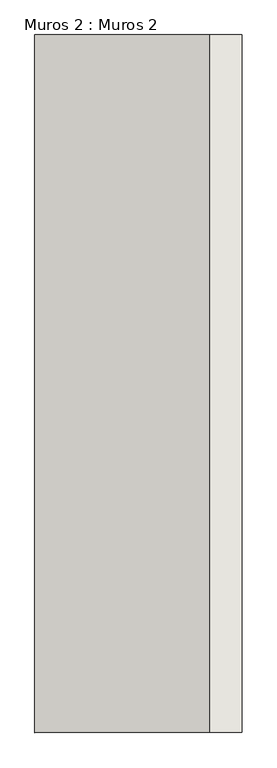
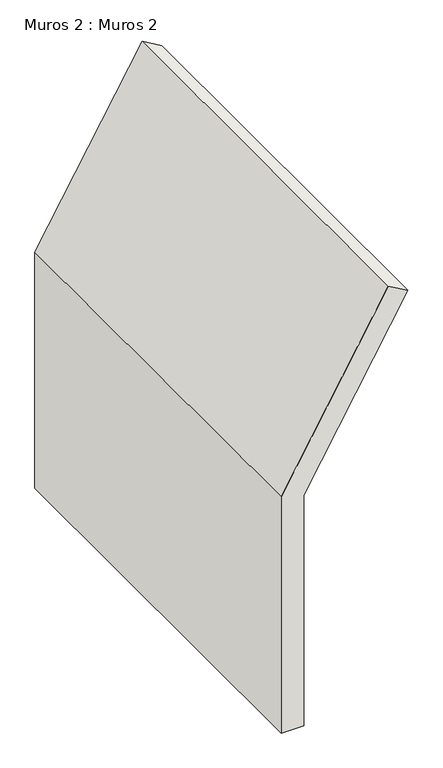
"""IFC4 building model written with IfcOpenShell, lengths in millimetres: wall geometry, Muros 2 : Muros 2."""

import ifcopenshell
import ifcopenshell.guid

model = None  # the IFC model being written
_history = None  # IfcOwnerHistory: only IFC2X3 demands one
_inside = {}  # id of a spatial element -> (the spatial element, [elements in it])
_under = {}  # id of a project, library or spatial element -> (it, [spatial elements below it])
_declared = {}  # id of a project -> (the project, [libraries it declares])
_typed = {}  # id of a type object -> (the type object, [elements of that type])
_made_of = {}  # id of a material, layer set ... -> (it, [elements and type objects made of it])


def new_model(schema):
    """Start an empty IFC model of exactly this schema.

    Asked for "IFC4X3", IfcOpenShell would pick the latest addendum, in which some entities
    have other attributes; the version numbers below select the first issue.
    IFC2X3 requires an IfcOwnerHistory on every rooted entity: one is made here for all.
    """
    global model, _history
    if schema == "IFC4X3":
        model = ifcopenshell.file(schema_version=(4, 3, 0, 0))
    else:
        model = ifcopenshell.file(schema=schema)
    _inside.clear()
    _under.clear()
    _declared.clear()
    _typed.clear()
    _made_of.clear()
    _history = None
    if model.schema == "IFC2X3":
        org = make("IfcOrganization", Name="unknown")
        user = make(
            "IfcPersonAndOrganization",
            ThePerson=make("IfcPerson", FamilyName="unknown"),
            TheOrganization=org,
        )
        app = make(
            "IfcApplication",
            ApplicationDeveloper=org,
            Version="unknown",
            ApplicationFullName="unknown",
            ApplicationIdentifier="unknown",
        )
        _history = make(
            "IfcOwnerHistory",
            OwningUser=user,
            OwningApplication=app,
            ChangeAction="ADDED",
            CreationDate=0,
        )
    return model


def make(cls, **values):
    """One entity of the class cls with the attributes given. An attribute that is None is left unset."""
    return model.create_entity(
        cls, **{name: value for name, value in values.items() if value is not None}
    )


def rooted(cls, **values):
    """An entity with a GlobalId (a new one), such as an element, a storey or a relation."""
    return make(cls, GlobalId=ifcopenshell.guid.new(), OwnerHistory=_history, **values)


def si_unit(unit_type, name, prefix=None):
    """IfcSIUnit, for example si_unit("LENGTHUNIT", "METRE", prefix="MILLI")."""
    return make("IfcSIUnit", UnitType=unit_type, Prefix=prefix, Name=name)


def assignment(units):
    """IfcUnitAssignment: the units of a project."""
    return None if units is None else make("IfcUnitAssignment", Units=units)


def point(xyz):
    """IfcCartesianPoint."""
    return None if xyz is None else make("IfcCartesianPoint", Coordinates=xyz)


def direction(xyz):
    """IfcDirection."""
    return None if xyz is None else make("IfcDirection", DirectionRatios=xyz)


def frame(location, z_axis=None, x_axis=None):
    """IfcAxis2Placement3D, a coordinate frame: its origin and axes. An axis left out is left unset."""
    return make(
        "IfcAxis2Placement3D",
        Location=point(location),
        Axis=direction(z_axis),
        RefDirection=direction(x_axis),
    )


def origin():
    """The frame at (0, 0, 0) with its axes left unset."""
    return frame((0.0, 0.0, 0.0))


def place(relative_to, where):
    """IfcLocalPlacement: puts the frame where relative to a parent placement (None: the world)."""
    return make(
        "IfcLocalPlacement", PlacementRelTo=relative_to, RelativePlacement=where
    )


def context(
    kind, dimensions, precision=None, world=None, true_north=None, identifier=None
):
    """IfcGeometricRepresentationContext, for example the 3D "Model" context."""
    return make(
        "IfcGeometricRepresentationContext",
        ContextIdentifier=identifier,
        ContextType=kind,
        CoordinateSpaceDimension=dimensions,
        Precision=precision,
        WorldCoordinateSystem=world,
        TrueNorth=true_north,
    )


def project(units=None, contexts=None):
    """IfcProject with its units and contexts."""
    return rooted(
        "IfcProject",
        Name="project",
        RepresentationContexts=contexts,
        UnitsInContext=assignment(units),
    )


def spatial(cls, under=None, at=None, **own):
    """A site, building, storey or space (cls), placed at a placement, below another one or the project."""
    s = rooted(cls, ObjectPlacement=at, **own)
    if under is not None:
        _under.setdefault(under.id(), (under, []))[1].append(s)
    return s


def polyline(points):
    """IfcPolyline through the points."""
    return make("IfcPolyline", Points=[point(p) for p in points])


def outline(outer, holes=None, kind="AREA"):
    """IfcArbitraryClosedProfileDef: a profile drawn as a closed curve; with holes, ...WithVoids."""
    if holes is None:
        return make("IfcArbitraryClosedProfileDef", ProfileType=kind, OuterCurve=outer)
    return make(
        "IfcArbitraryProfileDefWithVoids",
        ProfileType=kind,
        OuterCurve=outer,
        InnerCurves=holes,
    )


def extrude(swept, where, along, depth):
    """IfcExtrudedAreaSolid: the profile swept, set in the frame where, extruded along a direction by depth."""
    return make(
        "IfcExtrudedAreaSolid",
        SweptArea=swept,
        Position=where,
        ExtrudedDirection=direction(along),
        Depth=depth,
    )


def shape(context_of_items, identifier, shape_type, items):
    """IfcShapeRepresentation: the items that make up one representation, for example the "Body"."""
    return make(
        "IfcShapeRepresentation",
        ContextOfItems=context_of_items,
        RepresentationIdentifier=identifier,
        RepresentationType=shape_type,
        Items=items,
    )


def source(mapping_origin, context_of_items, identifier, shape_type, items):
    """IfcRepresentationMap: a shape defined once, which mapped items show again and again."""
    return make(
        "IfcRepresentationMap",
        MappingOrigin=mapping_origin,
        MappedRepresentation=shape(context_of_items, identifier, shape_type, items),
    )


def transform(
    local_origin,
    x_axis=None,
    y_axis=None,
    z_axis=None,
    scale=None,
    scale2=None,
    scale3=None,
    uniform=True,
):
    """IfcCartesianTransformationOperator3D, or its non-uniform kind. x_axis, y_axis, z_axis: its Axis1, 2, 3."""
    if uniform:
        return make(
            "IfcCartesianTransformationOperator3D",
            Axis1=direction(x_axis),
            Axis2=direction(y_axis),
            LocalOrigin=point(local_origin),
            Scale=scale,
            Axis3=direction(z_axis),
        )
    return make(
        "IfcCartesianTransformationOperator3DnonUniform",
        Axis1=direction(x_axis),
        Axis2=direction(y_axis),
        LocalOrigin=point(local_origin),
        Scale=scale,
        Axis3=direction(z_axis),
        Scale2=scale2,
        Scale3=scale3,
    )


def mapped(mapping_source, mapping_target):
    """IfcMappedItem: shows the shape of a source again, moved by a transform."""
    return make(
        "IfcMappedItem", MappingSource=mapping_source, MappingTarget=mapping_target
    )


def made_of(thing, what):
    """Note that an element or type object is made of a material, layer set ...; save() writes the relation."""
    if what is not None:
        _made_of.setdefault(what.id(), (what, []))[1].append(thing)
    return thing


def element(
    cls,
    number,
    at=None,
    inside=None,
    cuts=None,
    type_object=None,
    material=None,
    context=None,
    identifier="Body",
    shape_type=None,
    held_by="IfcProductDefinitionShape",
    body=None,
    shapes=None,
    **own,
):
    """One element of the class cls, such as IfcWall. Its Tag is "e" and its number.

    at: its placement. inside: the storey or other place that contains it. cuts: it is an
    opening in that element (IfcRelVoidsElement). A single representation is given by context,
    identifier, shape_type and body (its items); several are given by shapes. held_by: the class
    of the entity that holds the representations. save() writes the other relations.
    """
    e = rooted(cls, Tag="e%d" % number, ObjectPlacement=at, **own)
    if body is not None:
        shapes = [shape(context, identifier, shape_type, body)]
    if shapes is not None:
        e.Representation = make(held_by, Representations=shapes)
    if inside is not None:
        _inside.setdefault(inside.id(), (inside, []))[1].append(e)
    if cuts is not None:
        rooted(
            "IfcRelVoidsElement", RelatingBuildingElement=cuts, RelatedOpeningElement=e
        )
    if type_object is not None:
        _typed.setdefault(type_object.id(), (type_object, []))[1].append(e)
    return made_of(e, material)


def aggregate(whole, parts):
    """IfcRelAggregates: a whole, such as a stair, and the parts it consists of."""
    return rooted("IfcRelAggregates", RelatingObject=whole, RelatedObjects=parts)


def save(model, path):
    """Write the relations noted so far, then the file.

    IfcRelAggregates (storeys below a building ...), IfcRelContainedInSpatialStructure (elements
    in a storey), IfcRelDefinesByType, IfcRelAssociatesMaterial and IfcRelDeclares: one each for
    every whole, place, type object, material and project.
    """
    for whole, parts in _under.values():
        aggregate(whole, parts)
    for where, things in _inside.values():
        rooted(
            "IfcRelContainedInSpatialStructure",
            RelatedElements=things,
            RelatingStructure=where,
        )
    for kind, things in _typed.values():
        rooted("IfcRelDefinesByType", RelatedObjects=things, RelatingType=kind)
    for what, things in _made_of.values():
        rooted("IfcRelAssociatesMaterial", RelatedObjects=things, RelatingMaterial=what)
    for by, libraries in _declared.values():
        rooted("IfcRelDeclares", RelatingContext=by, RelatedDefinitions=libraries)
    model.write(path)


def muros_2_muros_2_61a0869e(model_context):
    return source(origin(), model_context, "Body", "SweptSolid", [
        extrude(outline(polyline([(1249.2102094, 913.3662897), (2203.0168181, 1464.0467919), (2263.0168181, 1360.1237435), (1281.3641125, 793.3662897), (-39.4464709, 793.3662897), (-39.4464709, 913.3662897), (1249.2102094, 913.3662897)])), frame((0.0, 950.8709561, 0.0), z_axis=(0.0, 1.0, 0.0), x_axis=(0.0, 0.0, 1.0)), (0.0, 0.0, 1.0), 2256.5613036),
    ])


if __name__ == "__main__":
    model = new_model("IFC4")
    model_context = context("Model", 3, world=origin())
    ifc_project = project(units=[si_unit("LENGTHUNIT", "METRE", prefix="MILLI")], contexts=[model_context])
    site = spatial("IfcSite", under=ifc_project)
    building = spatial("IfcBuilding", under=site)
    placement = place(None, origin())
    muros_2_muros_2_shape = muros_2_muros_2_61a0869e(model_context)
    element("IfcWall", 1, ObjectType="Muros 2 : Muros 2", at=placement, inside=building, context=model_context, shape_type="MappedRepresentation", body=[
        mapped(muros_2_muros_2_shape, transform((0.0, 0.0, 0.0), x_axis=(1.0, 0.0, 0.0), y_axis=(0.0, 1.0, 0.0), z_axis=(0.0, 0.0, 1.0))),
    ])
    save(model, "model.ifc")
